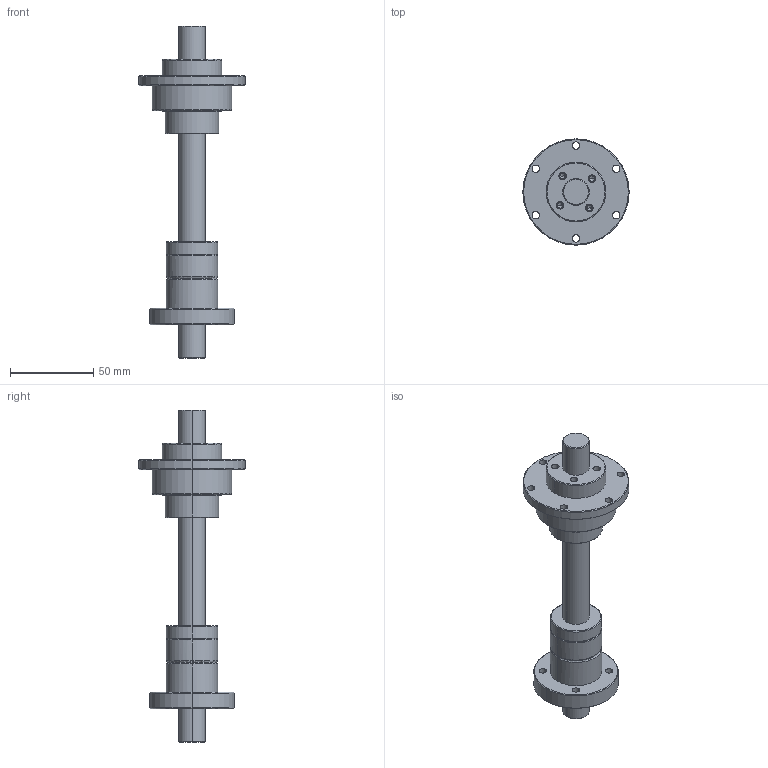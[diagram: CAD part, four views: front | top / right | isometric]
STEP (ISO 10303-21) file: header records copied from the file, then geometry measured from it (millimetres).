
FILE_DESCRIPTION (( 'STEP AP203' ), '1' );
FILE_NAME ('RSLY1616.STEP', '2014-11-13T05:19:55', ( '' ), ( '' ), 'SwSTEP 2.0', 'SolidWorks 2014', '' );
FILE_SCHEMA (( 'CONFIG_CONTROL_DESIGN' ));
Length unit declared in the file: millimetre
Products named in the file (4): SLF16; RSLY1616; SC16; RFSY1616
Assembly tree (3 placements, depth 2):
  RSLY1616
    SC16
    RFSY1616
    SLF16
Bounding box: 64 x 64 x 200 mm (x, y, z)
Volume: 136457.6 mm3; surface area: 40080.7 mm2
Topology: 4 solids, 4 shells, 157 faces, 382 edges, 236 vertices
Faces by surface type: cylinder 84, plane 31, cone 28, torus 14
Entity records: 5208 total; most frequent: CARTESIAN_POINT 949, DIRECTION 892, ORIENTED_EDGE 748, AXIS2_PLACEMENT_3D 375, EDGE_CURVE 374, VERTEX_POINT 236, CIRCLE 212, EDGE_LOOP 198
